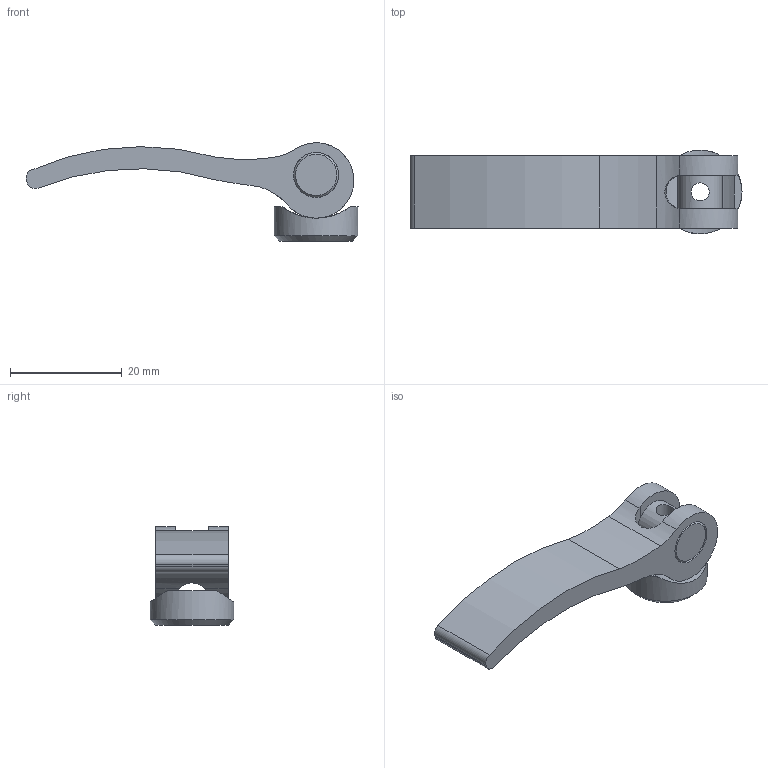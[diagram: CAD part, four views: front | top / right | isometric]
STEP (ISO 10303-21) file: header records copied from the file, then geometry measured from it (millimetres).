
FILE_DESCRIPTION(('STEP AP203'), '1');
FILE_NAME('À00360.11590400', '', ('UNSPECIFIED'), ('UNSPECIFIED'), 'C3D Converter', 'C3D Toolkit', '');
FILE_SCHEMA(('CONFIG_CONTROL_DESIGN'));
Length unit declared in the file: millimetre
Products named in the file (4): А00360.59.03; А00360.59.02; А00360.59.01
Assembly tree (3 placements, depth 2):
  (unnamed)
    А00360.59.03
    А00360.59.02
    А00360.59.01
Bounding box: 59.48 x 14.99 x 17.63 mm (x, y, z)
Volume: 4462.6 mm3; surface area: 3549.7 mm2
Topology: 3 solids, 3 shells, 31 faces, 82 edges, 55 vertices
Faces by surface type: cylinder 18, plane 10, cone 3
Full cylindrical faces by diameter (mm): 3.242 x1, 5.5 x1, 8 x1, 8.1 x2, 15 x1
Entity records: 2026 total; most frequent: CARTESIAN_POINT 958, DIRECTION 168, ORIENTED_EDGE 146, AXIS2_PLACEMENT_3D 74, EDGE_CURVE 73, VERTEX_POINT 55, EDGE_LOOP 46, CIRCLE 39
